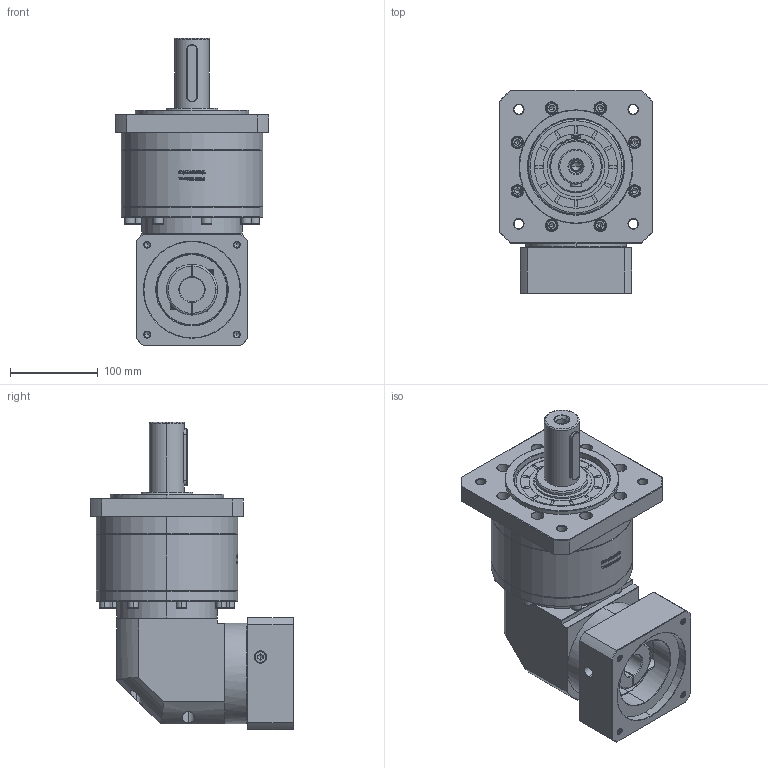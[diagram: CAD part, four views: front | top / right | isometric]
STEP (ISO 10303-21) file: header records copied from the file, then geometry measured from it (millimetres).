
FILE_DESCRIPTION (( 'STEP AP214' ), '1' );
FILE_NAME ('ZFR160A-D40-L2-28-110-145-M8.step', '2023-03-25T01:56:01', ( '' ), ( '' ), 'SwSTEP 2.0', 'SolidWorks 2016', '' );
FILE_SCHEMA (( 'AUTOMOTIVE_DESIGN' ));
Length unit declared in the file: millimetre
Products named in the file (1): ZFR160A-D40-L2-28-110-145-M8
Bounding box: 175 x 232.4 x 351.2 mm (x, y, z)
Volume: 5213903.5 mm3; surface area: 358919.8 mm2
Topology: 6 solids, 6 shells, 2785 faces, 7276 edges, 4661 vertices
Faces by surface type: plane 1374, bspline 498, cylinder 496, cone 371, torus 46
Entity records: 150315 total; most frequent: CARTESIAN_POINT 55615, ORIENTED_EDGE 14444, DIRECTION 11406, EDGE_CURVE 7222, VERTEX_POINT 4661, LINE 4506, VECTOR 4506, AXIS2_PLACEMENT_3D 3450
